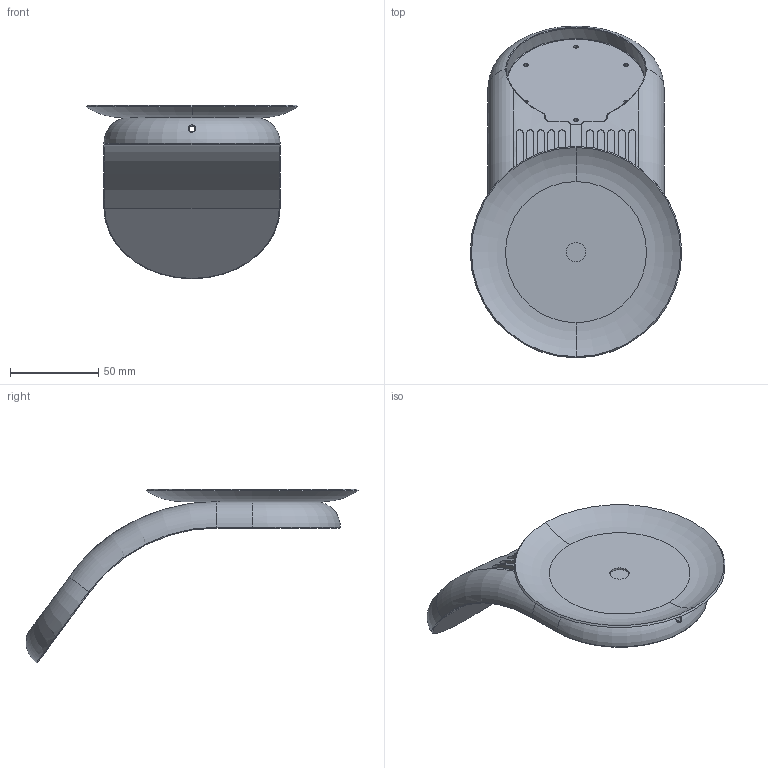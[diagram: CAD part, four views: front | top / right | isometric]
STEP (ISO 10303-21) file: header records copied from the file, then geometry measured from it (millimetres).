
FILE_DESCRIPTION (( 'STEP AP203' ), '1' );
FILE_NAME ('UALIKXXXXXXXLED-PER 3D.STEP', '2026-07-07T15:20:59', ( '' ), ( '' ), 'SwSTEP 2.0', 'SolidWorks 2026', '' );
FILE_SCHEMA (( 'CONFIG_CONTROL_DESIGN' ));
Length unit declared in the file: millimetre
Products named in the file (3): UALIKXXXXXXXLED-PER 3D; LIK-AP-01; LIK-AP-04
Assembly tree (2 placements, depth 2):
  UALIKXXXXXXXLED-PER 3D
    LIK-AP-01
    LIK-AP-04
Bounding box: 120 x 188.36 x 98.46 mm (x, y, z)
Volume: 162448.7 mm3; surface area: 80827.3 mm2
Topology: 2 solids, 2 shells, 292 faces, 693 edges, 399 vertices
Faces by surface type: cylinder 125, torus 59, plane 52, cone 28, bspline 24, sphere 4
Entity records: 11902 total; most frequent: CARTESIAN_POINT 5079, DIRECTION 1440, ORIENTED_EDGE 1326, EDGE_CURVE 663, AXIS2_PLACEMENT_3D 605, VERTEX_POINT 399, CIRCLE 332, EDGE_LOOP 320
